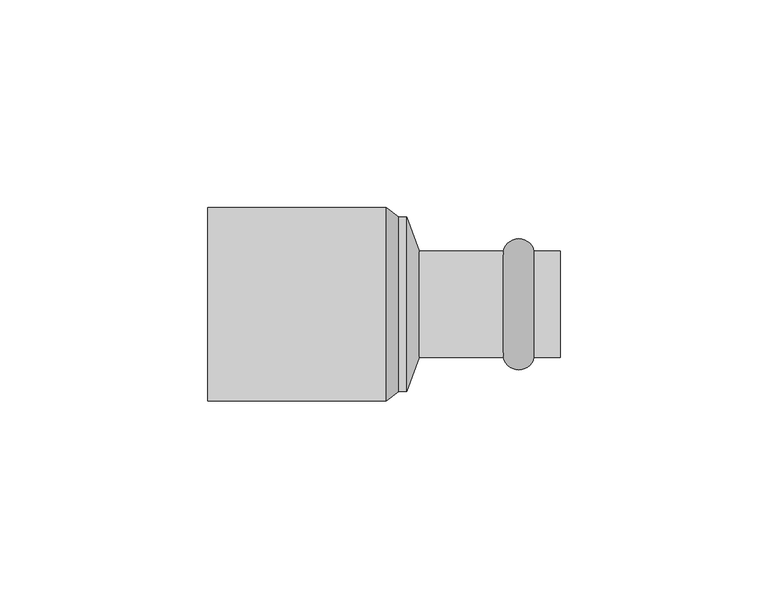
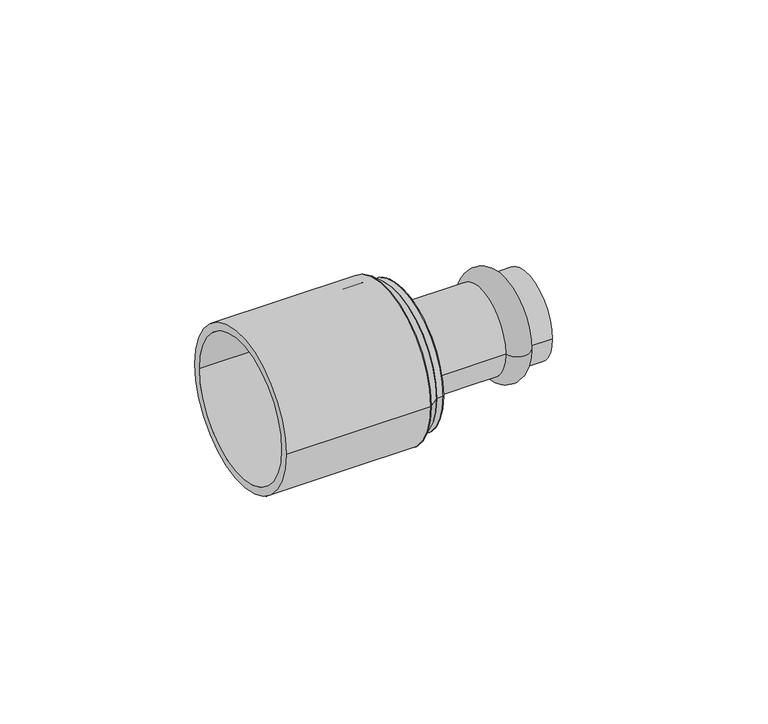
"""IFC4 building model written with IfcOpenShell, lengths in millimetres: pipe fitting geometry, VALTEC_VTi.905.I_Вставка переходная_Нержавеющая сталь : VTi.905.I."""

from ifc_helpers import new_model, si_unit, point, frame, origin, origin_2d, place, context, project, spatial, polyline, circle_curve, ellipse_curve, trimmed, segment, composite_curve, outline, extrude, source, transform, mapped, element, save
from ifc_brep_helpers import plane_surface, cylinder_surface, revolved_surface, advanced_brep


def pipe_fitting_56a9e5fc(model_context):
    return source(origin(), model_context, "Body", "SolidModel", [
        advanced_brep(
        [(36.1242346, -12.8, 0.0), (28.7757654, -12.8, 0.0), (28.7757654, 12.8, 0.0), (36.1242346, 12.8, 0.0), (42.5, -12.8, 0.0), (42.5, 12.8, 0.0), (42.5, -11.0, 0.0), (42.5, 11.0, 0.0), (8.5, -11.0, 0.0), (8.5, 11.0, 0.0), (8.5, -12.8, 0.0), (8.5, 12.8, 0.0)],
        [
            (0, 1, circle_curve(frame((32.45, -12.05, 0.0), z_axis=(0.0, 0.0, -1.0), x_axis=(-1.0, 0.0, 0.0)), 3.75)),
            (1, 2, circle_curve(frame((28.7757654, 0.0, 0.0), z_axis=(1.0, 0.0, 0.0), x_axis=(0.0, 1.0, 0.0)), 12.8)),
            (2, 3, circle_curve(frame((32.45, 12.05, 0.0), z_axis=(0.0, 0.0, -1.0), x_axis=(-1.0, 0.0, 0.0)), 3.75)),
            (3, 0, circle_curve(frame((36.1242346, 0.0, 0.0), z_axis=(-1.0, 0.0, 0.0), x_axis=(0.0, 1.0, 0.0)), 12.8)),
            (2, 1, circle_curve(frame((28.7757654, 0.0, 0.0), z_axis=(1.0, 0.0, 0.0), x_axis=(0.0, 1.0, 0.0)), 12.8)),
            (0, 3, circle_curve(frame((36.1242346, 0.0, 0.0), z_axis=(-1.0, 0.0, 0.0), x_axis=(0.0, 1.0, 0.0)), 12.8)),
            (4, 0),
            (3, 5),
            (5, 4, circle_curve(frame((42.5, 0.0, 0.0), z_axis=(-1.0, 0.0, 0.0), x_axis=(0.0, 1.0, 0.0)), 12.8)),
            (4, 5, circle_curve(frame((42.5, 0.0, 0.0), z_axis=(-1.0, 0.0, 0.0), x_axis=(0.0, 1.0, 0.0)), 12.8)),
            (6, 4),
            (5, 7),
            (7, 6, circle_curve(frame((42.5, 0.0, 0.0), z_axis=(-1.0, 0.0, 0.0), x_axis=(0.0, 1.0, 0.0)), 11.0)),
            (6, 7, circle_curve(frame((42.5, 0.0, 0.0), z_axis=(-1.0, 0.0, 0.0), x_axis=(0.0, 1.0, 0.0)), 11.0)),
            (8, 6),
            (7, 9),
            (9, 8, circle_curve(frame((8.5, 0.0, 0.0), z_axis=(-1.0, 0.0, 0.0), x_axis=(0.0, 1.0, 0.0)), 11.0)),
            (8, 9, circle_curve(frame((8.5, 0.0, 0.0), z_axis=(-1.0, 0.0, 0.0), x_axis=(0.0, 1.0, 0.0)), 11.0)),
            (10, 8),
            (9, 11),
            (11, 10, circle_curve(frame((8.5, 0.0, 0.0), z_axis=(-1.0, 0.0, 0.0), x_axis=(0.0, 1.0, 0.0)), 12.8)),
            (10, 11, circle_curve(frame((8.5, 0.0, 0.0), z_axis=(-1.0, 0.0, 0.0), x_axis=(0.0, 1.0, 0.0)), 12.8)),
            (1, 10),
            (11, 2),
        ],
        [
            revolved_surface(trimmed(ellipse_curve(frame((32.45, 12.05, 0.0), z_axis=(0.0, 0.0, -1.0), x_axis=(-1.0, 0.0, 0.0)), 3.75, 3.75), [point((28.7757654, 12.8, 0.0))], [point((36.1242346, 12.8, 0.0))], True, "CARTESIAN"), (46.0364426, 0.0, 0.0), (1.0, 0.0, 0.0)),
            cylinder_surface(frame((46.0364426, 0.0, 0.0), z_axis=(1.0, 0.0, 0.0), x_axis=(0.0, 1.0, 0.0)), 12.8),
            plane_surface(frame((42.5, 0.0, 0.0), z_axis=(1.0, 0.0, 0.0), x_axis=(0.0, 1.0, 0.0))),
            revolved_surface(polyline([(42.5, 11.0, 0.0), (8.5, 11.0, 0.0)]), (46.0364426, 0.0, 0.0), (1.0, 0.0, 0.0)),
            plane_surface(frame((8.5, 0.0, 0.0), z_axis=(-1.0, 0.0, 0.0), x_axis=(0.0, 1.0, 0.0))),
        ],
        [
            (0, [[1, 2, 3, 4]]),
            (0, [[-3, 5, -1, 6]]),
            (1, [[7, -4, 8, 9]]),
            (1, [[-8, -6, -7, 10]]),
            (2, [[11, -9, 12, 13]]),
            (2, [[-12, -10, -11, 14]]),
            (3, [[15, -13, 16, 17]]),
            (3, [[-16, -14, -15, 18]]),
            (4, [[19, -17, 20, 21]]),
            (4, [[-20, -18, -19, 22]]),
            (1, [[23, -21, 24, -2]]),
            (1, [[-24, -22, -23, -5]]),
        ],
    ),
        advanced_brep(
        [(5.5, -21.0, 0.0), (5.5, 21.0, 0.0), (8.5, -12.8, 0.0), (8.5, 12.8, 0.0)],
        [
            (0, 1, circle_curve(frame((5.5, 0.0, 0.0), z_axis=(-1.0, 0.0, 0.0), x_axis=(0.0, -1.0, 0.0)), 21.0)),
            (1, 0, circle_curve(frame((5.5, 0.0, 0.0), z_axis=(-1.0, 0.0, 0.0), x_axis=(0.0, 1.0, 0.0)), 21.0)),
            (2, 3, circle_curve(frame((8.5, 0.0, 0.0), z_axis=(1.0, 0.0, 0.0), x_axis=(0.0, 1.0, 0.0)), 12.8)),
            (3, 2, circle_curve(frame((8.5, 0.0, 0.0), z_axis=(1.0, 0.0, 0.0), x_axis=(0.0, -1.0, 0.0)), 12.8)),
            (2, 0),
            (1, 3),
        ],
        [
            plane_surface(frame((5.5, 0.0, 0.0), z_axis=(-1.0, 0.0, 0.0), x_axis=(0.0, 0.0, 1.0))),
            plane_surface(frame((8.5, 0.0, 0.0), z_axis=(1.0, 0.0, 0.0), x_axis=(0.0, 0.0, 1.0))),
            revolved_surface(polyline([(8.5, -12.799999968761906, 0.0), (5.5, -21.0, 0.0)]), (13.1829268, 0.0, 0.0), (-1.0, 0.0, 0.0)),
            revolved_surface(polyline([(8.5, 12.799999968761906, 0.0), (5.5, 21.0, 0.0)]), (13.1829268, 0.0, 0.0), (-1.0, 0.0, 0.0)),
        ],
        [
            (0, [[1, 2]]),
            (1, [[3, 4]]),
            (2, [[-3, 5, -2, 6]]),
            (3, [[-4, -6, -1, -5]]),
        ],
    ),
        extrude(outline(composite_curve([segment(trimmed(circle_curve(origin_2d(), 21.0), [point((-21.0, 0.0))], [point((21.0, 0.0))], False, "CARTESIAN"), True, "CONTINUOUS"), segment(trimmed(circle_curve(origin_2d(), 21.0), [point((21.0, 0.0))], [point((-21.0, 0.0))], False, "CARTESIAN"), True, "CONTINUOUS")], self_intersect=False)), frame((3.5, 0.0, 0.0), z_axis=(1.0, 0.0, 0.0), x_axis=(0.0, 1.0, 0.0)), (0.0, 0.0, 1.0), 2.0),
        advanced_brep(
        [(3.5, -21.0, 0.0), (3.5, 21.0, 0.0), (0.5, -23.35, 0.0), (0.5, 23.35, 0.0)],
        [
            (0, 1, circle_curve(frame((3.5, 0.0, 0.0), z_axis=(1.0, 0.0, 0.0), x_axis=(0.0, -1.0, 0.0)), 21.0)),
            (1, 0, circle_curve(frame((3.5, 0.0, 0.0), z_axis=(1.0, 0.0, 0.0), x_axis=(0.0, 1.0, 0.0)), 21.0)),
            (2, 3, circle_curve(frame((0.5, 0.0, 0.0), z_axis=(-1.0, 0.0, 0.0), x_axis=(0.0, 1.0, 0.0)), 23.35)),
            (3, 2, circle_curve(frame((0.5, 0.0, 0.0), z_axis=(-1.0, 0.0, 0.0), x_axis=(0.0, -1.0, 0.0)), 23.35)),
            (3, 1),
            (0, 2),
        ],
        [
            plane_surface(frame((3.5, 0.0, 0.0), z_axis=(1.0, 0.0, 0.0), x_axis=(0.0, 0.0, -1.0))),
            plane_surface(frame((0.5, 0.0, 0.0), z_axis=(-1.0, 0.0, 0.0), x_axis=(0.0, 0.0, -1.0))),
            revolved_surface(polyline([(3.5, -20.99999999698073, 0.0), (0.5, -23.35, 0.0)]), (30.3085106, 0.0, 0.0), (-1.0, 0.0, 0.0)),
            revolved_surface(polyline([(3.5, 20.99999999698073, 0.0), (0.5, 23.35, 0.0)]), (30.3085106, 0.0, 0.0), (-1.0, 0.0, 0.0)),
        ],
        [
            (0, [[1, 2]]),
            (1, [[3, 4]]),
            (2, [[-4, 5, -1, 6]]),
            (3, [[-3, -6, -2, -5]]),
        ],
    ),
        extrude(outline(composite_curve([segment(trimmed(circle_curve(origin_2d(), 23.35), [point((-23.35, 0.0))], [point((23.35, 0.0))], False, "CARTESIAN"), True, "CONTINUOUS"), segment(trimmed(circle_curve(origin_2d(), 23.35), [point((23.35, 0.0))], [point((-23.35, 0.0))], False, "CARTESIAN"), True, "CONTINUOUS")], self_intersect=False), holes=[composite_curve([segment(trimmed(circle_curve(origin_2d(), 21.0), [point((-21.0, 0.0))], [point((21.0, 0.0))], True, "CARTESIAN"), True, "CONTINUOUS"), segment(trimmed(circle_curve(origin_2d(), 21.0), [point((21.0, 0.0))], [point((-21.0, 0.0))], True, "CARTESIAN"), True, "CONTINUOUS")], self_intersect=False)]), frame((-42.5, 0.0, 0.0), z_axis=(1.0, 0.0, 0.0), x_axis=(0.0, 1.0, 0.0)), (0.0, 0.0, 1.0), 43.0),
    ])


if __name__ == "__main__":
    model = new_model("IFC4")
    model_context = context("Model", 3, world=origin())
    ifc_project = project(units=[si_unit("LENGTHUNIT", "METRE", prefix="MILLI")], contexts=[model_context])
    site = spatial("IfcSite", under=ifc_project)
    building = spatial("IfcBuilding", under=site)
    placement = place(None, origin())
    pipe_fitting_shape = pipe_fitting_56a9e5fc(model_context)
    element("IfcPipeFitting", 1, ObjectType="VALTEC_VTi.905.I_Вставка переходная_Нержавеющая сталь : VTi.905.I", at=placement, inside=building, context=model_context, shape_type="MappedRepresentation", body=[
        mapped(pipe_fitting_shape, transform((0.0, 0.0, 0.0), x_axis=(1.0, 0.0, 0.0), y_axis=(0.0, 1.0, 0.0), z_axis=(0.0, 0.0, 1.0))),
    ])
    save(model, "model.ifc")
